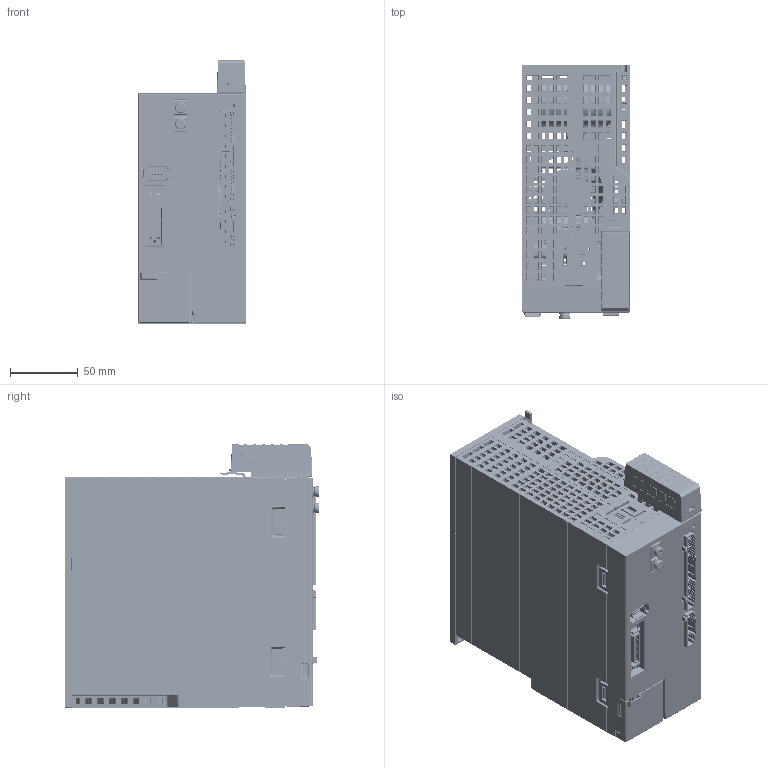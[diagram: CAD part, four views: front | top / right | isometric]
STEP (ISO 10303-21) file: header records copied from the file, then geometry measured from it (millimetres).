
FILE_DESCRIPTION((''),'2;1');
FILE_NAME('000-FD445P-AYYED_ASM','2025-07-13T13:39:19',('19759'),(''),'CREO PARAMETRIC BY PTC INC, 2016510','CREO PARAMETRIC BY PTC INC, 2016510','');
FILE_SCHEMA(('CONFIG_CONTROL_DESIGN','SHAPE_APPEARANCE_LAYERS_GROUPS'));
Products named in the file (50): FD445P-A; F9C-7-7_5-09P; 09P_ASM; F9C-7-7_5-04P; 04P_ASM; 35X58_SNAP; C-4-2842289-0-A-3D; TRANS; SAMPLING_RESISTOR; SM_TO-3PH; 00-FD445P-PCB-A_ASM; FD435P-B; SCSI_FEMALE1; MALE_ASM; CON_1394_90; CON-1394_ASM; USER_LIBRARY-USB-MINI-B_1; USB-MIN_ASM_1_ASM; USB-MIN_ASM_ASM; CON_NETWORK_PORT; RJ45; 00-FD435P-PCB-B_ASM; PCB2_FD5P_X; LCD_MONITOR; SWITCH; ESL-SWITCH; ASSY_PCB2_FD5P_ASM; FD445P_HT-20250519_0_6MM; FD445P-HT_ASM; 445P-F_20240523; FD445P-FRONT-PANEL_ASM; 445P-L-20240523; FD445P-LEFT_COVER_ASM; 445P-R_20240523; FD445P-RIGHT_COVER_ASM; PL_FRONT_LCD_COVER_MOLD; FAN_6025; ADMI19106E1645KV_1; ADMI19106E1645KV_2; ADMI19106E1645KV_ASM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
Assembly tree (78 placements, depth 5):
  000-FD445P-AYYED_ASM
    00-FD445P-PCB-A_ASM
      FD445P-A
      09P_ASM
        F9C-7-7_5-09P
      04P_ASM
        F9C-7-7_5-04P
      35X58_SNAP  x2
      C-4-2842289-0-A-3D
      TRANS
      SAMPLING_RESISTOR  x10
      SM_TO-3PH
    00-FD435P-PCB-B_ASM
      FD435P-B
      MALE_ASM
        SCSI_FEMALE1
      CON-1394_ASM
        CON_1394_90
      USB-MIN_ASM_ASM
        USB-MIN_ASM_1_ASM
          USER_LIBRARY-USB-MINI-B_1
      CON_NETWORK_PORT
      RJ45
      C-4-2842289-0-A-3D
    ASSY_PCB2_FD5P_ASM
      PCB2_FD5P_X
      LCD_MONITOR
      SWITCH  x4
      ESL-SWITCH
    FD445P-HT_ASM
      FD445P_HT-20250519_0_6MM
    FD445P-FRONT-PANEL_ASM
      445P-F_20240523
    FD445P-LEFT_COVER_ASM
      445P-L-20240523
    FD445P-RIGHT_COVER_ASM
      445P-R_20240523
    PL_FRONT_LCD_COVER_MOLD
    FAN_6025
    FD415DCHT-0821_ASM
      ADMI19106E1645KV_ASM
        ADMI19106E1645KV_1
        ADMI19106E1645KV_2
    ASSY_50W300RJXX_ASM
      50W300RJXX
    SCREW_M3X10  x13
    SCREW_M4X12  x4
    EVA_FD445P
    TIM
    SCREW_M3X8
    FD445P-V1_1_2024080001
Bounding box: 80.3 x 188 x 194.2 mm (x, y, z)
Volume: 430139.3 mm3; surface area: 624022.2 mm2
Topology: 68 solids, 71 shells, 16007 faces, 42585 edges, 27124 vertices
Faces by surface type: plane 10557, cylinder 3475, bspline 877, torus 573, cone 326, sphere 169, extrusion 26, revolution 4
Entity records: 573511 total; most frequent: CARTESIAN_POINT 123747, ORIENTED_EDGE 74936, DIRECTION 64668, EDGE_CURVE 37479, PRESENTATION_STYLE_ASSIGNMENT 34131, STYLED_ITEM 33611, CURVE_STYLE 33389, VECTOR 28626
